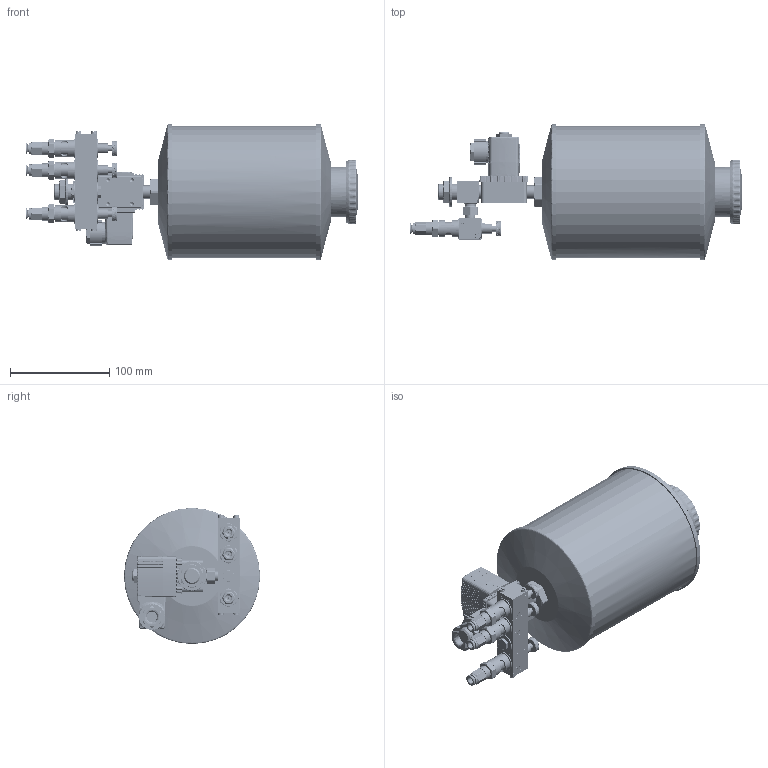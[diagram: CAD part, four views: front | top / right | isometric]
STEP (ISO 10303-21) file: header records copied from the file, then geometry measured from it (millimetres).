
FILE_DESCRIPTION (( 'STEP AP214' ), '1' );
FILE_NAME ('TRO_03_02_03_XXX.STEP', '2025-11-24T13:15:36', ( '' ), ( '' ), 'SwSTEP 2.0', 'SolidWorks 2022', '' );
FILE_SCHEMA (( 'AUTOMOTIVE_DESIGN' ));
Length unit declared in the file: millimetre
Products named in the file (20): TRO_2er_mittel; TRO_Endplatte; DR6_NEU; 9911 0701 0601_6_1_8_HD; TRO_2er_mittel_Mit_Verschr.SLDPRT; TRO_Magnetventil_Stecker; R200107-N1; TRO_Stutzen.SLDPRT; OR 7.66X1.78; TRO_2er; TRO_Magnetventil_ohne; TRO_1er_Mit_Verschr.SLDPRT; RIVOLUZIONE_0; TRO_03_02_03_XXX; DR6-C_HDX_25.07.16; TRO_Magnetventil_aktuell; TRO_Behaelter_02; OR 7.2X1.9_1
Assembly tree (18 placements, depth 4):
  TRO_2er_mittel
  DR6_NEU
  R200107-N1
  TRO_03_02_03_XXX
    TRO_2er_mittel_Mit_Verschr.SLDPRT
      TRO_Stutzen.SLDPRT
        TRO_2er_mittel
      TRO_2er
      9911 0701 0601_6_1_8_HD  x2
        RIVOLUZIONE_0
        OR 7.66X1.78
        DR6-C_HDX_25.07.16
    TRO_Endplatte  x2
    TRO_1er_Mit_Verschr.SLDPRT
      TRO_2er
      9911 0701 0601_6_1_8_HD
        RIVOLUZIONE_0
        OR 7.66X1.78
        DR6-C_HDX_25.07.16
    TRO_Magnetventil_aktuell
      TRO_Magnetventil_ohne
      TRO_Magnetventil_Stecker
    TRO_Behaelter_02
  OR 7.2X1.9_1
Bounding box: 335.2 x 137.4 x 137.4 mm (x, y, z)
Volume: 465628.1 mm3; surface area: 306421.3 mm2
Topology: 23 solids, 23 shells, 6545 faces, 17073 edges, 10645 vertices
Faces by surface type: plane 2577, bspline 2325, cylinder 1001, cone 639, torus 3
Full cylindrical faces by diameter (mm): 1.5 x3, 2 x3, 3.5 x7, 3.8 x3, 4.2 x3, 4.5 x3, 5.5 x4, 5.9 x6, 6 x2, 6.2 x3, 6.25 x1, 6.3 x3, 6.75 x1, 7 x4, 7.2 x3, 7.4 x1, 8 x2, 8.3 x3, 8.4 x1, 8.5 x1, 8.6 x6, 8.8 x1, 9 x4, 9.2 x1, 9.5 x3, 9.728 x3, 9.8 x1, 9.9 x3, 10 x10, 10.1 x1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
Entity records: 314777 total; most frequent: CARTESIAN_POINT 173273, ORIENTED_EDGE 32212, DIRECTION 18064, EDGE_CURVE 16106, VERTEX_POINT 10219, B_SPLINE_CURVE_WITH_KNOTS 7740, EDGE_LOOP 6971, AXIS2_PLACEMENT_3D 6720
